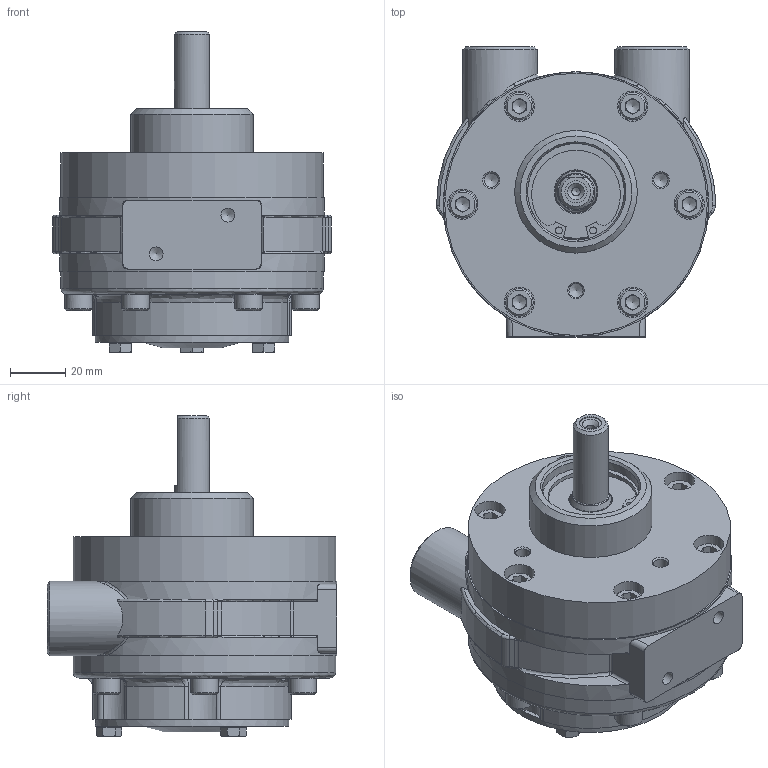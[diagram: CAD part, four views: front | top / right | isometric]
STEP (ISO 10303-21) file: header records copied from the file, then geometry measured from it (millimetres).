
FILE_DESCRIPTION (( 'STEP AP214' ), '1' );
FILE_NAME ('VA2X Defeature.STEP', '2022-05-24T14:45:41', ( '' ), ( '' ), 'SwSTEP 2.0', 'SolidWorks 2020', '' );
FILE_SCHEMA (( 'AUTOMOTIVE_DESIGN' ));
Length unit declared in the file: millimetre
Products named in the file (1): VA2X Defeature
Bounding box: 101 x 105 x 116.2 mm (x, y, z)
Volume: 472099.5 mm3; surface area: 51797 mm2
Topology: 1 solids, 1 shells, 500 faces, 1203 edges, 717 vertices
Faces by surface type: plane 264, cylinder 106, cone 65, bspline 37, torus 20, sphere 8
Full cylindrical faces by diameter (mm): 2.5 x2, 3 x1, 5 x2, 5.105 x3, 8 x4, 10 x12, 11 x6, 12.7 x1, 14.95 x2, 15 x1, 15.3 x1, 17.1 x1, 27 x2, 34 x1, 35 x2, 37 x1, 44.4 x1, 70 x1, 95 x2
Entity records: 18866 total; most frequent: CARTESIAN_POINT 6552, DIRECTION 2186, ORIENTED_EDGE 2064, EDGE_CURVE 1032, AXIS2_PLACEMENT_3D 864, VERTEX_POINT 659, EDGE_LOOP 629, FACE_OUTER_BOUND 549
